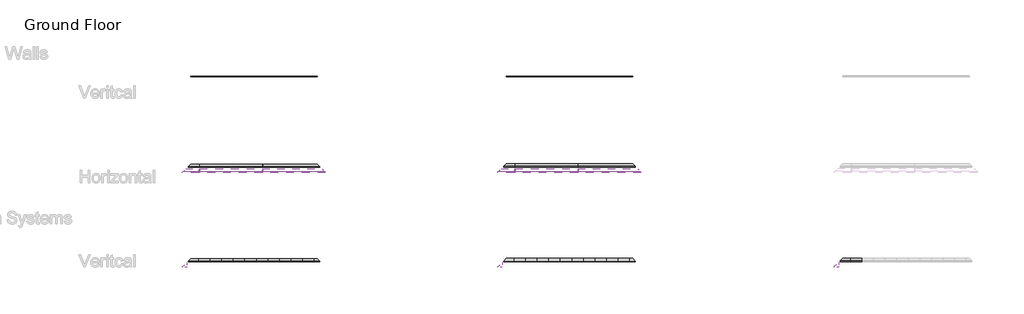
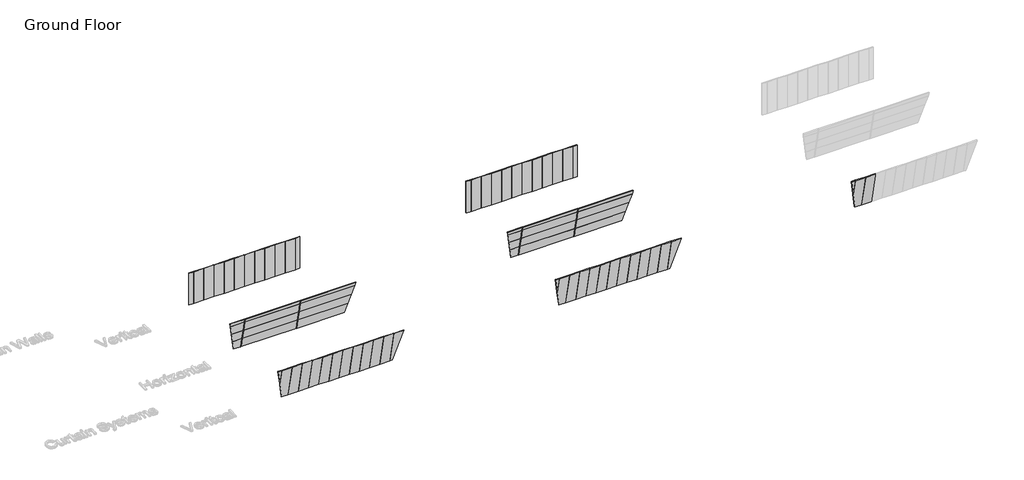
# One storey, part 1 of 8: 77 plates, 16 members.
"""IFC4 building model written with IfcOpenShell, lengths in millimetres."""

from ifc_helpers import new_model, si_unit, origin, place, context, project, spatial, transform, mapped, element, save
from components import rectangular_mullion_pi_mullion_20gap_50depth_70width_d86b8fff, rectangular_mullion_pi_mullion_20gap_50depth_70width_81056362, system_panel_d58b1396, system_panel_f572c1b2, system_panel_e06f3d7a, system_panel_d14b1779, system_panel_a5532c42, system_panel_94d6362e, system_panel_70361756, system_panel_64f5c2a7, system_panel_3e6877ad, system_panel_9fc00e6b, system_panel_0d8661cb, system_panel_57492bcf, system_panel_6d6b4bea, system_panel_0a7c523a, system_panel_9f17affc, system_panel_e9b7887a, system_panel_136fc1d7, system_panel_a8e93ce1, system_panel_80eadf60, system_panel_a79f1e6c, system_panel_bf4ea7ad, system_panel_1faeb660, system_panel_50a3a64b, system_panel_0f5eba97, system_panel_3cb8534e, system_panel_6406c018, system_panel_4131a554, system_panel_7735773b, system_panel_64921b5b, system_panel_bf0b8bad, system_panel_0ee0410c, system_panel_2999ba9c, system_panel_bf6df981, system_panel_4289257d, system_panel_7543d43a

model = new_model("IFC4")

# Units and contexts
model_context = context("Model", 3, world=origin())
ifc_project = project(units=[si_unit("LENGTHUNIT", "METRE", prefix="MILLI")], contexts=[model_context])

# Site, building, storey
site = spatial("IfcSite", under=ifc_project)
building = spatial("IfcBuilding", under=site)
storey = spatial("IfcBuildingStorey", under=building, Name="Ground Floor", Elevation=0.0)

# Members
placement = place(None, origin())
rectangular_mullion_pi_mullion_20gap_50depth_70width_shape = rectangular_mullion_pi_mullion_20gap_50depth_70width_d86b8fff(model_context)
element("IfcMember", 1, ObjectType="Rectangular Mullion : PI-Mullion - 20Gap-50Depth-70Width", at=placement, inside=storey, context=model_context, shape_type="MappedRepresentation", body=[
    mapped(rectangular_mullion_pi_mullion_20gap_50depth_70width_shape, transform((-44187.533429, -10929.4787062, 2152.1912103), x_axis=(-1.0, 0.0, 0.0), y_axis=(0.0, -0.9782687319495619, -0.2073409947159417), z_axis=(0.0, -0.2073409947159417, 0.9782687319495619))),
])
element("IfcMember", 2, ObjectType="Rectangular Mullion : PI-Mullion - 20Gap-50Depth-70Width", at=placement, inside=storey, context=model_context, shape_type="MappedRepresentation", body=[
    mapped(rectangular_mullion_pi_mullion_20gap_50depth_70width_shape, transform((-50187.533429, -10929.4787062, 2152.1912103), x_axis=(-1.0, 0.0, 0.0), y_axis=(0.0, -0.9782687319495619, -0.2073409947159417), z_axis=(0.0, -0.2073409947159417, 0.9782687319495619))),
])
element("IfcMember", 3, ObjectType="Rectangular Mullion : PI-Mullion - 20Gap-50Depth-70Width", at=placement, inside=storey, context=model_context, shape_type="MappedRepresentation", body=[
    mapped(rectangular_mullion_pi_mullion_20gap_50depth_70width_shape, transform((-44187.533429, -11157.5538004, 3228.2868154), x_axis=(-1.0, 0.0, 0.0), y_axis=(0.0, -0.9782687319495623, -0.20734099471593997), z_axis=(0.0, -0.20734099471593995, 0.9782687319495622))),
])
element("IfcMember", 4, ObjectType="Rectangular Mullion : PI-Mullion - 20Gap-50Depth-70Width", at=placement, inside=storey, context=model_context, shape_type="MappedRepresentation", body=[
    mapped(rectangular_mullion_pi_mullion_20gap_50depth_70width_shape, transform((-50187.533429, -11157.5538004, 3228.2868154), x_axis=(-1.0, 0.0, 0.0), y_axis=(0.0, -0.9782687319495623, -0.20734099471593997), z_axis=(0.0, -0.20734099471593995, 0.9782687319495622))),
])
element("IfcMember", 5, ObjectType="Rectangular Mullion : PI-Mullion - 20Gap-50Depth-70Width", at=placement, inside=storey, context=model_context, shape_type="MappedRepresentation", body=[
    mapped(rectangular_mullion_pi_mullion_20gap_50depth_70width_shape, transform((-14187.533429, -10929.4787062, 2152.1912103), x_axis=(-1.0, 0.0, 0.0), y_axis=(0.0, -0.9782687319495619, -0.2073409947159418), z_axis=(0.0, -0.2073409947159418, 0.9782687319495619))),
])
element("IfcMember", 6, ObjectType="Rectangular Mullion : PI-Mullion - 20Gap-50Depth-70Width", at=placement, inside=storey, context=model_context, shape_type="MappedRepresentation", body=[
    mapped(rectangular_mullion_pi_mullion_20gap_50depth_70width_shape, transform((-20187.533429, -10929.4787062, 2152.1912103), x_axis=(-1.0, 0.0, 0.0), y_axis=(0.0, -0.9782687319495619, -0.2073409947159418), z_axis=(0.0, -0.2073409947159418, 0.9782687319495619))),
])
element("IfcMember", 7, ObjectType="Rectangular Mullion : PI-Mullion - 20Gap-50Depth-70Width", at=placement, inside=storey, context=model_context, shape_type="MappedRepresentation", body=[
    mapped(rectangular_mullion_pi_mullion_20gap_50depth_70width_shape, transform((-14187.533429, -11157.5538004, 3228.2868154), x_axis=(-1.0, 0.0, 0.0), y_axis=(0.0, -0.9782687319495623, -0.20734099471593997), z_axis=(0.0, -0.20734099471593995, 0.9782687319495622))),
])
element("IfcMember", 8, ObjectType="Rectangular Mullion : PI-Mullion - 20Gap-50Depth-70Width", at=placement, inside=storey, context=model_context, shape_type="MappedRepresentation", body=[
    mapped(rectangular_mullion_pi_mullion_20gap_50depth_70width_shape, transform((-20187.533429, -11157.5538004, 3228.2868154), x_axis=(-1.0, 0.0, 0.0), y_axis=(0.0, -0.9782687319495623, -0.20734099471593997), z_axis=(0.0, -0.20734099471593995, 0.9782687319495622))),
])
rectangular_mullion_pi_mullion_20gap_50depth_70width_2_shape = rectangular_mullion_pi_mullion_20gap_50depth_70width_81056362(model_context)
element("IfcMember", 9, ObjectType="Rectangular Mullion : PI-Mullion - 20Gap-50Depth-70Width", at=placement, inside=storey, context=model_context, shape_type="MappedRepresentation", body=[
    mapped(rectangular_mullion_pi_mullion_20gap_50depth_70width_2_shape, transform((-44187.533429, -11236.337246, 3600.0), x_axis=(-1.0, 0.0, 0.0), y_axis=(0.0, -0.978268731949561, -0.20734099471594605), z_axis=(0.0, -0.20734099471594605, 0.978268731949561))),
])
element("IfcMember", 10, ObjectType="Rectangular Mullion : PI-Mullion - 20Gap-50Depth-70Width", at=placement, inside=storey, context=model_context, shape_type="MappedRepresentation", body=[
    mapped(rectangular_mullion_pi_mullion_20gap_50depth_70width_2_shape, transform((-50187.533429, -11236.337246, 3600.0), x_axis=(-1.0, 0.0, 0.0), y_axis=(0.0, -0.978268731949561, -0.20734099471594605), z_axis=(0.0, -0.20734099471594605, 0.978268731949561))),
])
element("IfcMember", 11, ObjectType="Rectangular Mullion : PI-Mullion - 20Gap-50Depth-70Width", at=placement, inside=storey, context=model_context, shape_type="MappedRepresentation", body=[
    mapped(rectangular_mullion_pi_mullion_20gap_50depth_70width_2_shape, transform((-14187.533429, -11236.337246, 3600.0), x_axis=(-1.0, 0.0, 0.0), y_axis=(0.0, -0.978268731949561, -0.20734099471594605), z_axis=(0.0, -0.20734099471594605, 0.978268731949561))),
])
element("IfcMember", 12, ObjectType="Rectangular Mullion : PI-Mullion - 20Gap-50Depth-70Width", at=placement, inside=storey, context=model_context, shape_type="MappedRepresentation", body=[
    mapped(rectangular_mullion_pi_mullion_20gap_50depth_70width_2_shape, transform((-20187.533429, -11236.337246, 3600.0), x_axis=(-1.0, 0.0, 0.0), y_axis=(0.0, -0.978268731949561, -0.20734099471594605), z_axis=(0.0, -0.20734099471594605, 0.978268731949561))),
])
element("IfcMember", 13, ObjectType="Rectangular Mullion : PI-Mullion - 20Gap-50Depth-70Width", at=placement, inside=storey, context=model_context, shape_type="MappedRepresentation", body=[
    mapped(rectangular_mullion_pi_mullion_20gap_50depth_70width_shape, transform((-44187.533429, -10701.403612, 1076.0956051), x_axis=(-1.0, 0.0, 0.0), y_axis=(0.0, -0.9782687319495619, -0.20734099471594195), z_axis=(0.0, -0.20734099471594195, 0.9782687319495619))),
])
element("IfcMember", 14, ObjectType="Rectangular Mullion : PI-Mullion - 20Gap-50Depth-70Width", at=placement, inside=storey, context=model_context, shape_type="MappedRepresentation", body=[
    mapped(rectangular_mullion_pi_mullion_20gap_50depth_70width_shape, transform((-50187.533429, -10701.403612, 1076.0956051), x_axis=(-1.0, 0.0, 0.0), y_axis=(0.0, -0.9782687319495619, -0.20734099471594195), z_axis=(0.0, -0.20734099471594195, 0.9782687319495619))),
])
element("IfcMember", 15, ObjectType="Rectangular Mullion : PI-Mullion - 20Gap-50Depth-70Width", at=placement, inside=storey, context=model_context, shape_type="MappedRepresentation", body=[
    mapped(rectangular_mullion_pi_mullion_20gap_50depth_70width_shape, transform((-14187.533429, -10701.403612, 1076.0956051), x_axis=(-1.0, 0.0, 0.0), y_axis=(0.0, -0.9782687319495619, -0.20734099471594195), z_axis=(0.0, -0.20734099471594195, 0.9782687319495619))),
])
element("IfcMember", 16, ObjectType="Rectangular Mullion : PI-Mullion - 20Gap-50Depth-70Width", at=placement, inside=storey, context=model_context, shape_type="MappedRepresentation", body=[
    mapped(rectangular_mullion_pi_mullion_20gap_50depth_70width_shape, transform((-20187.533429, -10701.403612, 1076.0956051), x_axis=(-1.0, 0.0, 0.0), y_axis=(0.0, -0.9782687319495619, -0.20734099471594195), z_axis=(0.0, -0.20734099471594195, 0.9782687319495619))),
])

# Plates
system_panel_shape = system_panel_d58b1396(model_context)
element("IfcPlate", 17, ObjectType="System Panel : Inspire 50mm Vertical - Plain RHEA-PIR", at=placement, inside=storey, context=model_context, shape_type="MappedRepresentation", body=[
    mapped(system_panel_shape, transform((-51597.533429, -19854.8328819, 1800.0), x_axis=(-1.0, 0.0, 0.0), y_axis=(0.0, -0.978268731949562, -0.20734099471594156), z_axis=(0.0, -0.20734099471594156, 0.978268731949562))),
])
system_panel_2_shape = system_panel_f572c1b2(model_context)
element("IfcPlate", 18, ObjectType="System Panel : Inspire 80mm Vertical - Plain RHEA-PIR", at=placement, inside=storey, context=model_context, shape_type="MappedRepresentation", body=[
    mapped(system_panel_2_shape, transform((-21597.533429, -19854.8328819, 1800.0), x_axis=(-1.0, 0.0, 0.0), y_axis=(0.0, -0.978268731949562, -0.20734099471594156), z_axis=(0.0, -0.20734099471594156, 0.978268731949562))),
])
system_panel_3_shape = system_panel_e06f3d7a(model_context)
element("IfcPlate", 19, ObjectType="System Panel : Inspire 100mm Vertical - Plain RHEA-PIR", at=placement, inside=storey, context=model_context, shape_type="MappedRepresentation", body=[
    mapped(system_panel_3_shape, transform((10402.466571, -19854.8328819, 1800.0), x_axis=(-1.0, 0.0, 0.0), y_axis=(0.0, -0.978268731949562, -0.20734099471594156), z_axis=(0.0, -0.20734099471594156, 0.978268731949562))),
])
system_panel_4_shape = system_panel_d14b1779(model_context)
element("IfcPlate", 20, ObjectType="System Panel : Inspire 50mm Vertical - Plain RHEA-PIR", at=placement, inside=storey, context=model_context, shape_type="MappedRepresentation", body=[
    mapped(system_panel_4_shape, transform((-47747.533429, -2133.3285178, 0.0), x_axis=(1.0, 0.0, 0.0), y_axis=(0.0, 1.0, 0.0), z_axis=(0.0, 0.0, 1.0))),
])
element("IfcPlate", 21, ObjectType="System Panel : Inspire 50mm Vertical - Plain RHEA-PIR", at=placement, inside=storey, context=model_context, shape_type="MappedRepresentation", body=[
    mapped(system_panel_4_shape, transform((-46647.533429, -2133.3285178, 0.0), x_axis=(1.0, 0.0, 0.0), y_axis=(0.0, 1.0, 0.0), z_axis=(0.0, 0.0, 1.0))),
])
element("IfcPlate", 22, ObjectType="System Panel : Inspire 50mm Vertical - Plain RHEA-PIR", at=placement, inside=storey, context=model_context, shape_type="MappedRepresentation", body=[
    mapped(system_panel_4_shape, transform((-45547.533429, -2133.3285178, 0.0), x_axis=(1.0, 0.0, 0.0), y_axis=(0.0, 1.0, 0.0), z_axis=(0.0, 0.0, 1.0))),
])
element("IfcPlate", 23, ObjectType="System Panel : Inspire 50mm Vertical - Plain RHEA-PIR", at=placement, inside=storey, context=model_context, shape_type="MappedRepresentation", body=[
    mapped(system_panel_4_shape, transform((-44447.533429, -2133.3285178, 0.0), x_axis=(1.0, 0.0, 0.0), y_axis=(0.0, 1.0, 0.0), z_axis=(0.0, 0.0, 1.0))),
])
element("IfcPlate", 24, ObjectType="System Panel : Inspire 50mm Vertical - Plain RHEA-PIR", at=placement, inside=storey, context=model_context, shape_type="MappedRepresentation", body=[
    mapped(system_panel_4_shape, transform((-43347.533429, -2133.3285178, 0.0), x_axis=(1.0, 0.0, 0.0), y_axis=(0.0, 1.0, 0.0), z_axis=(0.0, 0.0, 1.0))),
])
element("IfcPlate", 25, ObjectType="System Panel : Inspire 50mm Vertical - Plain RHEA-PIR", at=placement, inside=storey, context=model_context, shape_type="MappedRepresentation", body=[
    mapped(system_panel_4_shape, transform((-42247.533429, -2133.3285178, 0.0), x_axis=(1.0, 0.0, 0.0), y_axis=(0.0, 1.0, 0.0), z_axis=(0.0, 0.0, 1.0))),
])
element("IfcPlate", 26, ObjectType="System Panel : Inspire 50mm Vertical - Plain RHEA-PIR", at=placement, inside=storey, context=model_context, shape_type="MappedRepresentation", body=[
    mapped(system_panel_4_shape, transform((-41147.533429, -2133.3285178, 0.0), x_axis=(1.0, 0.0, 0.0), y_axis=(0.0, 1.0, 0.0), z_axis=(0.0, 0.0, 1.0))),
])
element("IfcPlate", 27, ObjectType="System Panel : Inspire 50mm Vertical - Plain RHEA-PIR", at=placement, inside=storey, context=model_context, shape_type="MappedRepresentation", body=[
    mapped(system_panel_4_shape, transform((-40047.533429, -2133.3285178, 0.0), x_axis=(1.0, 0.0, 0.0), y_axis=(0.0, 1.0, 0.0), z_axis=(0.0, 0.0, 1.0))),
])
element("IfcPlate", 28, ObjectType="System Panel : Inspire 50mm Vertical - Plain RHEA-PIR", at=placement, inside=storey, context=model_context, shape_type="MappedRepresentation", body=[
    mapped(system_panel_4_shape, transform((-48847.533429, -2133.3285178, 0.0), x_axis=(1.0, 0.0, 0.0), y_axis=(0.0, 1.0, 0.0), z_axis=(0.0, 0.0, 1.0))),
])
element("IfcPlate", 29, ObjectType="System Panel : Inspire 50mm Vertical - Plain RHEA-PIR", at=placement, inside=storey, context=model_context, shape_type="MappedRepresentation", body=[
    mapped(system_panel_4_shape, transform((-49947.533429, -2133.3285178, 0.0), x_axis=(1.0, 0.0, 0.0), y_axis=(0.0, 1.0, 0.0), z_axis=(0.0, 0.0, 1.0))),
])
system_panel_5_shape = system_panel_a5532c42(model_context)
element("IfcPlate", 30, ObjectType="System Panel : Inspire 50mm Vertical - Plain RHEA-PIR", at=placement, inside=storey, context=model_context, shape_type="MappedRepresentation", body=[
    mapped(system_panel_5_shape, transform((-50747.533429, -2133.3285178, 0.0), x_axis=(1.0, 0.0, 0.0), y_axis=(0.0, 1.0, 0.0), z_axis=(0.0, 0.0, 1.0))),
])
element("IfcPlate", 31, ObjectType="System Panel : Inspire 50mm Vertical - Plain RHEA-PIR", at=placement, inside=storey, context=model_context, shape_type="MappedRepresentation", body=[
    mapped(system_panel_5_shape, transform((-39247.533429, -2133.3285178, 0.0), x_axis=(1.0, 0.0, 0.0), y_axis=(0.0, 1.0, 0.0), z_axis=(0.0, 0.0, 1.0))),
])
system_panel_6_shape = system_panel_94d6362e(model_context)
element("IfcPlate", 32, ObjectType="System Panel : Inspire 50mm Horizontal - Plain RHEA-PIR", at=placement, inside=storey, context=model_context, shape_type="MappedRepresentation", body=[
    mapped(system_panel_6_shape, transform((-41228.8348939, -10929.4787062, 2152.1912103), x_axis=(-1.0, 0.0, 0.0), y_axis=(0.0, -0.978268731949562, -0.20734099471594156), z_axis=(0.0, -0.20734099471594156, 0.978268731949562))),
])
system_panel_7_shape = system_panel_70361756(model_context)
element("IfcPlate", 33, ObjectType="System Panel : Inspire 50mm Horizontal - Plain RHEA-PIR", at=placement, inside=storey, context=model_context, shape_type="MappedRepresentation", body=[
    mapped(system_panel_7_shape, transform((-47187.533429, -10473.3285178, 0.0), x_axis=(-1.0, 0.0, 0.0), y_axis=(0.0, -0.978268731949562, -0.20734099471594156), z_axis=(0.0, -0.20734099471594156, 0.978268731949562))),
])
element("IfcPlate", 34, ObjectType="System Panel : Inspire 50mm Horizontal - Plain RHEA-PIR", at=placement, inside=storey, context=model_context, shape_type="MappedRepresentation", body=[
    mapped(system_panel_7_shape, transform((-47187.533429, -10701.403612, 1076.0956051), x_axis=(-1.0, 0.0, 0.0), y_axis=(0.0, -0.978268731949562, -0.20734099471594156), z_axis=(0.0, -0.20734099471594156, 0.978268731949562))),
])
element("IfcPlate", 35, ObjectType="System Panel : Inspire 50mm Horizontal - Plain RHEA-PIR", at=placement, inside=storey, context=model_context, shape_type="MappedRepresentation", body=[
    mapped(system_panel_7_shape, transform((-47187.533429, -10929.4787062, 2152.1912103), x_axis=(-1.0, 0.0, 0.0), y_axis=(0.0, -0.978268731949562, -0.20734099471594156), z_axis=(0.0, -0.20734099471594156, 0.978268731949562))),
])
system_panel_8_shape = system_panel_64f5c2a7(model_context)
element("IfcPlate", 36, ObjectType="System Panel : Inspire 50mm Horizontal - Plain RHEA-PIR", at=placement, inside=storey, context=model_context, shape_type="MappedRepresentation", body=[
    mapped(system_panel_8_shape, transform((-50956.231964, -10929.4787062, 2152.1912103), x_axis=(-1.0, 0.0, 0.0), y_axis=(0.0, -0.978268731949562, -0.20734099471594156), z_axis=(0.0, -0.20734099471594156, 0.978268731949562))),
])
system_panel_9_shape = system_panel_3e6877ad(model_context)
element("IfcPlate", 37, ObjectType="System Panel : Inspire 50mm Horizontal - Plain RHEA-PIR", at=placement, inside=storey, context=model_context, shape_type="MappedRepresentation", body=[
    mapped(system_panel_9_shape, transform((-41187.533429, -11157.5538004, 3228.2868154), x_axis=(-1.0, 0.0, 0.0), y_axis=(0.0, -0.978268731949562, -0.20734099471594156), z_axis=(0.0, -0.20734099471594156, 0.978268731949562))),
])
system_panel_10_shape = system_panel_9fc00e6b(model_context)
element("IfcPlate", 38, ObjectType="System Panel : Inspire 50mm Horizontal - Plain RHEA-PIR", at=placement, inside=storey, context=model_context, shape_type="MappedRepresentation", body=[
    mapped(system_panel_10_shape, transform((-47187.533429, -11157.5538004, 3228.2868154), x_axis=(-1.0, 0.0, 0.0), y_axis=(0.0, -0.978268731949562, -0.20734099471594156), z_axis=(0.0, -0.20734099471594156, 0.978268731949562))),
])
system_panel_11_shape = system_panel_0d8661cb(model_context)
element("IfcPlate", 39, ObjectType="System Panel : Inspire 50mm Horizontal - Plain RHEA-PIR", at=placement, inside=storey, context=model_context, shape_type="MappedRepresentation", body=[
    mapped(system_panel_11_shape, transform((-50997.533429, -11157.5538004, 3228.2868154), x_axis=(-1.0, 0.0, 0.0), y_axis=(0.0, -0.978268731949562, -0.20734099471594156), z_axis=(0.0, -0.20734099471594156, 0.978268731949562))),
])
system_panel_12_shape = system_panel_57492bcf(model_context)
element("IfcPlate", 40, ObjectType="System Panel : Inspire 50mm Horizontal - Plain RHEA-PIR", at=placement, inside=storey, context=model_context, shape_type="MappedRepresentation", body=[
    mapped(system_panel_12_shape, transform((-41467.9672506, -10473.3285178, 0.0), x_axis=(-1.0, 0.0, 0.0), y_axis=(0.0, -0.978268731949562, -0.20734099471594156), z_axis=(0.0, -0.20734099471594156, 0.978268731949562))),
])
system_panel_13_shape = system_panel_6d6b4bea(model_context)
element("IfcPlate", 41, ObjectType="System Panel : Inspire 50mm Horizontal - Plain RHEA-PIR", at=placement, inside=storey, context=model_context, shape_type="MappedRepresentation", body=[
    mapped(system_panel_13_shape, transform((-50717.0996073, -10473.3285178, 0.0), x_axis=(-1.0, 0.0, 0.0), y_axis=(0.0, -0.978268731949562, -0.20734099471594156), z_axis=(0.0, -0.20734099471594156, 0.978268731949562))),
])
system_panel_14_shape = system_panel_0a7c523a(model_context)
element("IfcPlate", 42, ObjectType="System Panel : Inspire 50mm Horizontal - Plain RHEA-PIR", at=placement, inside=storey, context=model_context, shape_type="MappedRepresentation", body=[
    mapped(system_panel_14_shape, transform((-41348.4010723, -10701.403612, 1076.0956051), x_axis=(-1.0, 0.0, 0.0), y_axis=(0.0, -0.978268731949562, -0.20734099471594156), z_axis=(0.0, -0.20734099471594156, 0.978268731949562))),
])
system_panel_15_shape = system_panel_9f17affc(model_context)
element("IfcPlate", 43, ObjectType="System Panel : Inspire 50mm Horizontal - Plain RHEA-PIR", at=placement, inside=storey, context=model_context, shape_type="MappedRepresentation", body=[
    mapped(system_panel_15_shape, transform((-50836.6657856, -10701.403612, 1076.0956051), x_axis=(-1.0, 0.0, 0.0), y_axis=(0.0, -0.978268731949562, -0.20734099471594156), z_axis=(0.0, -0.20734099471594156, 0.978268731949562))),
])
system_panel_16_shape = system_panel_e9b7887a(model_context)
element("IfcPlate", 44, ObjectType="System Panel : Inspire 50mm Vertical - Plain RHEA-PIR", at=placement, inside=storey, context=model_context, shape_type="MappedRepresentation", body=[
    mapped(system_panel_16_shape, transform((-38747.533429, -19473.3285178, 0.0), x_axis=(-1.0, 0.0, 0.0), y_axis=(0.0, -0.978268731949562, -0.20734099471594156), z_axis=(0.0, -0.20734099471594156, 0.978268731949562))),
])
system_panel_17_shape = system_panel_136fc1d7(model_context)
element("IfcPlate", 45, ObjectType="System Panel : Inspire 50mm Vertical - Plain RHEA-PIR", at=placement, inside=storey, context=model_context, shape_type="MappedRepresentation", body=[
    mapped(system_panel_17_shape, transform((-39847.533429, -19473.3285178, 0.0), x_axis=(-1.0, 0.0, 0.0), y_axis=(0.0, -0.978268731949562, -0.20734099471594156), z_axis=(0.0, -0.20734099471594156, 0.978268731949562))),
])
element("IfcPlate", 46, ObjectType="System Panel : Inspire 50mm Vertical - Plain RHEA-PIR", at=placement, inside=storey, context=model_context, shape_type="MappedRepresentation", body=[
    mapped(system_panel_17_shape, transform((-40947.533429, -19473.3285178, 0.0), x_axis=(-1.0, 0.0, 0.0), y_axis=(0.0, -0.978268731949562, -0.20734099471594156), z_axis=(0.0, -0.20734099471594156, 0.978268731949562))),
])
element("IfcPlate", 47, ObjectType="System Panel : Inspire 50mm Vertical - Plain RHEA-PIR", at=placement, inside=storey, context=model_context, shape_type="MappedRepresentation", body=[
    mapped(system_panel_17_shape, transform((-42047.533429, -19473.3285178, 0.0), x_axis=(-1.0, 0.0, 0.0), y_axis=(0.0, -0.978268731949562, -0.20734099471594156), z_axis=(0.0, -0.20734099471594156, 0.978268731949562))),
])
element("IfcPlate", 48, ObjectType="System Panel : Inspire 50mm Vertical - Plain RHEA-PIR", at=placement, inside=storey, context=model_context, shape_type="MappedRepresentation", body=[
    mapped(system_panel_17_shape, transform((-43147.533429, -19473.3285178, 0.0), x_axis=(-1.0, 0.0, 0.0), y_axis=(0.0, -0.978268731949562, -0.20734099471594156), z_axis=(0.0, -0.20734099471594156, 0.978268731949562))),
])
element("IfcPlate", 49, ObjectType="System Panel : Inspire 50mm Vertical - Plain RHEA-PIR", at=placement, inside=storey, context=model_context, shape_type="MappedRepresentation", body=[
    mapped(system_panel_17_shape, transform((-44247.533429, -19473.3285178, 0.0), x_axis=(-1.0, 0.0, 0.0), y_axis=(0.0, -0.978268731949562, -0.20734099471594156), z_axis=(0.0, -0.20734099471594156, 0.978268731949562))),
])
element("IfcPlate", 50, ObjectType="System Panel : Inspire 50mm Vertical - Plain RHEA-PIR", at=placement, inside=storey, context=model_context, shape_type="MappedRepresentation", body=[
    mapped(system_panel_17_shape, transform((-45347.533429, -19473.3285178, 0.0), x_axis=(-1.0, 0.0, 0.0), y_axis=(0.0, -0.978268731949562, -0.20734099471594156), z_axis=(0.0, -0.20734099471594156, 0.978268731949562))),
])
element("IfcPlate", 51, ObjectType="System Panel : Inspire 50mm Vertical - Plain RHEA-PIR", at=placement, inside=storey, context=model_context, shape_type="MappedRepresentation", body=[
    mapped(system_panel_17_shape, transform((-46447.533429, -19473.3285178, 0.0), x_axis=(-1.0, 0.0, 0.0), y_axis=(0.0, -0.978268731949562, -0.20734099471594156), z_axis=(0.0, -0.20734099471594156, 0.978268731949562))),
])
element("IfcPlate", 52, ObjectType="System Panel : Inspire 50mm Vertical - Plain RHEA-PIR", at=placement, inside=storey, context=model_context, shape_type="MappedRepresentation", body=[
    mapped(system_panel_17_shape, transform((-47547.533429, -19473.3285178, 0.0), x_axis=(-1.0, 0.0, 0.0), y_axis=(0.0, -0.978268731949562, -0.20734099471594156), z_axis=(0.0, -0.20734099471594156, 0.978268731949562))),
])
element("IfcPlate", 53, ObjectType="System Panel : Inspire 50mm Vertical - Plain RHEA-PIR", at=placement, inside=storey, context=model_context, shape_type="MappedRepresentation", body=[
    mapped(system_panel_17_shape, transform((-48647.533429, -19473.3285178, 0.0), x_axis=(-1.0, 0.0, 0.0), y_axis=(0.0, -0.978268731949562, -0.20734099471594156), z_axis=(0.0, -0.20734099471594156, 0.978268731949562))),
])
element("IfcPlate", 54, ObjectType="System Panel : Inspire 50mm Vertical - Plain RHEA-PIR", at=placement, inside=storey, context=model_context, shape_type="MappedRepresentation", body=[
    mapped(system_panel_17_shape, transform((-49747.533429, -19473.3285178, 0.0), x_axis=(-1.0, 0.0, 0.0), y_axis=(0.0, -0.978268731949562, -0.20734099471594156), z_axis=(0.0, -0.20734099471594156, 0.978268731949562))),
])
system_panel_18_shape = system_panel_a8e93ce1(model_context)
element("IfcPlate", 55, ObjectType="System Panel : Inspire 50mm Vertical - Plain RHEA-PIR", at=placement, inside=storey, context=model_context, shape_type="MappedRepresentation", body=[
    mapped(system_panel_18_shape, transform((-50847.533429, -19473.3285178, 0.0), x_axis=(-1.0, 0.0, 0.0), y_axis=(0.0, -0.978268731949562, -0.20734099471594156), z_axis=(0.0, -0.20734099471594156, 0.978268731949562))),
])
system_panel_19_shape = system_panel_80eadf60(model_context)
element("IfcPlate", 56, ObjectType="System Panel : Inspire 80mm Vertical - Plain RHEA-PIR", at=placement, inside=storey, context=model_context, shape_type="MappedRepresentation", body=[
    mapped(system_panel_19_shape, transform((-8747.533429, -19473.3285178, 0.0), x_axis=(-1.0, 0.0, 0.0), y_axis=(0.0, -0.978268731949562, -0.20734099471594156), z_axis=(0.0, -0.20734099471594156, 0.978268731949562))),
])
system_panel_20_shape = system_panel_a79f1e6c(model_context)
element("IfcPlate", 57, ObjectType="System Panel : Inspire 80mm Vertical - Plain RHEA-PIR", at=placement, inside=storey, context=model_context, shape_type="MappedRepresentation", body=[
    mapped(system_panel_20_shape, transform((-9847.533429, -19473.3285178, 0.0), x_axis=(-1.0, 0.0, 0.0), y_axis=(0.0, -0.978268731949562, -0.20734099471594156), z_axis=(0.0, -0.20734099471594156, 0.978268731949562))),
])
element("IfcPlate", 58, ObjectType="System Panel : Inspire 80mm Vertical - Plain RHEA-PIR", at=placement, inside=storey, context=model_context, shape_type="MappedRepresentation", body=[
    mapped(system_panel_20_shape, transform((-10947.533429, -19473.3285178, 0.0), x_axis=(-1.0, 0.0, 0.0), y_axis=(0.0, -0.978268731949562, -0.20734099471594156), z_axis=(0.0, -0.20734099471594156, 0.978268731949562))),
])
element("IfcPlate", 59, ObjectType="System Panel : Inspire 80mm Vertical - Plain RHEA-PIR", at=placement, inside=storey, context=model_context, shape_type="MappedRepresentation", body=[
    mapped(system_panel_20_shape, transform((-12047.533429, -19473.3285178, 0.0), x_axis=(-1.0, 0.0, 0.0), y_axis=(0.0, -0.978268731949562, -0.20734099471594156), z_axis=(0.0, -0.20734099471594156, 0.978268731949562))),
])
element("IfcPlate", 60, ObjectType="System Panel : Inspire 80mm Vertical - Plain RHEA-PIR", at=placement, inside=storey, context=model_context, shape_type="MappedRepresentation", body=[
    mapped(system_panel_20_shape, transform((-13147.533429, -19473.3285178, 0.0), x_axis=(-1.0, 0.0, 0.0), y_axis=(0.0, -0.978268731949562, -0.20734099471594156), z_axis=(0.0, -0.20734099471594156, 0.978268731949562))),
])
element("IfcPlate", 61, ObjectType="System Panel : Inspire 80mm Vertical - Plain RHEA-PIR", at=placement, inside=storey, context=model_context, shape_type="MappedRepresentation", body=[
    mapped(system_panel_20_shape, transform((-14247.533429, -19473.3285178, 0.0), x_axis=(-1.0, 0.0, 0.0), y_axis=(0.0, -0.978268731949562, -0.20734099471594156), z_axis=(0.0, -0.20734099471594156, 0.978268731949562))),
])
element("IfcPlate", 62, ObjectType="System Panel : Inspire 80mm Vertical - Plain RHEA-PIR", at=placement, inside=storey, context=model_context, shape_type="MappedRepresentation", body=[
    mapped(system_panel_20_shape, transform((-15347.533429, -19473.3285178, 0.0), x_axis=(-1.0, 0.0, 0.0), y_axis=(0.0, -0.978268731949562, -0.20734099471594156), z_axis=(0.0, -0.20734099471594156, 0.978268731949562))),
])
element("IfcPlate", 63, ObjectType="System Panel : Inspire 80mm Vertical - Plain RHEA-PIR", at=placement, inside=storey, context=model_context, shape_type="MappedRepresentation", body=[
    mapped(system_panel_20_shape, transform((-16447.533429, -19473.3285178, 0.0), x_axis=(-1.0, 0.0, 0.0), y_axis=(0.0, -0.978268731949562, -0.20734099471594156), z_axis=(0.0, -0.20734099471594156, 0.978268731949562))),
])
element("IfcPlate", 64, ObjectType="System Panel : Inspire 80mm Vertical - Plain RHEA-PIR", at=placement, inside=storey, context=model_context, shape_type="MappedRepresentation", body=[
    mapped(system_panel_20_shape, transform((-17547.533429, -19473.3285178, 0.0), x_axis=(-1.0, 0.0, 0.0), y_axis=(0.0, -0.978268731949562, -0.20734099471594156), z_axis=(0.0, -0.20734099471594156, 0.978268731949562))),
])
element("IfcPlate", 65, ObjectType="System Panel : Inspire 80mm Vertical - Plain RHEA-PIR", at=placement, inside=storey, context=model_context, shape_type="MappedRepresentation", body=[
    mapped(system_panel_20_shape, transform((-18647.533429, -19473.3285178, 0.0), x_axis=(-1.0, 0.0, 0.0), y_axis=(0.0, -0.978268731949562, -0.20734099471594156), z_axis=(0.0, -0.20734099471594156, 0.978268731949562))),
])
element("IfcPlate", 66, ObjectType="System Panel : Inspire 80mm Vertical - Plain RHEA-PIR", at=placement, inside=storey, context=model_context, shape_type="MappedRepresentation", body=[
    mapped(system_panel_20_shape, transform((-19747.533429, -19473.3285178, 0.0), x_axis=(-1.0, 0.0, 0.0), y_axis=(0.0, -0.978268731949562, -0.20734099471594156), z_axis=(0.0, -0.20734099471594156, 0.978268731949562))),
])
system_panel_21_shape = system_panel_bf4ea7ad(model_context)
element("IfcPlate", 67, ObjectType="System Panel : Inspire 80mm Vertical - Plain RHEA-PIR", at=placement, inside=storey, context=model_context, shape_type="MappedRepresentation", body=[
    mapped(system_panel_21_shape, transform((-20847.533429, -19473.3285178, 0.0), x_axis=(-1.0, 0.0, 0.0), y_axis=(0.0, -0.978268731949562, -0.20734099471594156), z_axis=(0.0, -0.20734099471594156, 0.978268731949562))),
])
system_panel_22_shape = system_panel_1faeb660(model_context)
element("IfcPlate", 68, ObjectType="System Panel : Inspire 80mm Horizontal - Plain RHEA-PIR", at=placement, inside=storey, context=model_context, shape_type="MappedRepresentation", body=[
    mapped(system_panel_22_shape, transform((-11467.9672506, -10473.3285178, 0.0), x_axis=(-1.0, 0.0, 0.0), y_axis=(0.0, -0.978268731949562, -0.20734099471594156), z_axis=(0.0, -0.20734099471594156, 0.978268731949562))),
])
system_panel_23_shape = system_panel_50a3a64b(model_context)
element("IfcPlate", 69, ObjectType="System Panel : Inspire 80mm Horizontal - Plain RHEA-PIR", at=placement, inside=storey, context=model_context, shape_type="MappedRepresentation", body=[
    mapped(system_panel_23_shape, transform((-17187.533429, -10473.3285178, 0.0), x_axis=(-1.0, 0.0, 0.0), y_axis=(0.0, -0.978268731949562, -0.20734099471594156), z_axis=(0.0, -0.20734099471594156, 0.978268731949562))),
])
element("IfcPlate", 70, ObjectType="System Panel : Inspire 80mm Horizontal - Plain RHEA-PIR", at=placement, inside=storey, context=model_context, shape_type="MappedRepresentation", body=[
    mapped(system_panel_23_shape, transform((-17187.533429, -10701.403612, 1076.0956051), x_axis=(-1.0, 0.0, 0.0), y_axis=(0.0, -0.978268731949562, -0.20734099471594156), z_axis=(0.0, -0.20734099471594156, 0.978268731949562))),
])
element("IfcPlate", 71, ObjectType="System Panel : Inspire 80mm Horizontal - Plain RHEA-PIR", at=placement, inside=storey, context=model_context, shape_type="MappedRepresentation", body=[
    mapped(system_panel_23_shape, transform((-17187.533429, -10929.4787062, 2152.1912103), x_axis=(-1.0, 0.0, 0.0), y_axis=(0.0, -0.978268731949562, -0.20734099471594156), z_axis=(0.0, -0.20734099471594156, 0.978268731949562))),
])
system_panel_24_shape = system_panel_0f5eba97(model_context)
element("IfcPlate", 72, ObjectType="System Panel : Inspire 80mm Horizontal - Plain RHEA-PIR", at=placement, inside=storey, context=model_context, shape_type="MappedRepresentation", body=[
    mapped(system_panel_24_shape, transform((-20717.0996073, -10473.3285178, 0.0), x_axis=(-1.0, 0.0, 0.0), y_axis=(0.0, -0.978268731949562, -0.20734099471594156), z_axis=(0.0, -0.20734099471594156, 0.978268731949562))),
])
system_panel_25_shape = system_panel_3cb8534e(model_context)
element("IfcPlate", 73, ObjectType="System Panel : Inspire 80mm Horizontal - Plain RHEA-PIR", at=placement, inside=storey, context=model_context, shape_type="MappedRepresentation", body=[
    mapped(system_panel_25_shape, transform((-11348.4010723, -10701.403612, 1076.0956051), x_axis=(-1.0, 0.0, 0.0), y_axis=(0.0, -0.978268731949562, -0.20734099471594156), z_axis=(0.0, -0.20734099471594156, 0.978268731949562))),
])
system_panel_26_shape = system_panel_6406c018(model_context)
element("IfcPlate", 74, ObjectType="System Panel : Inspire 80mm Horizontal - Plain RHEA-PIR", at=placement, inside=storey, context=model_context, shape_type="MappedRepresentation", body=[
    mapped(system_panel_26_shape, transform((-20836.6657856, -10701.403612, 1076.0956051), x_axis=(-1.0, 0.0, 0.0), y_axis=(0.0, -0.978268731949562, -0.20734099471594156), z_axis=(0.0, -0.20734099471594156, 0.978268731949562))),
])
system_panel_27_shape = system_panel_4131a554(model_context)
element("IfcPlate", 75, ObjectType="System Panel : Inspire 80mm Horizontal - Plain RHEA-PIR", at=placement, inside=storey, context=model_context, shape_type="MappedRepresentation", body=[
    mapped(system_panel_27_shape, transform((-11228.8348939, -10929.4787062, 2152.1912103), x_axis=(-1.0, 0.0, 0.0), y_axis=(0.0, -0.978268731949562, -0.20734099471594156), z_axis=(0.0, -0.20734099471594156, 0.978268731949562))),
])
system_panel_28_shape = system_panel_7735773b(model_context)
element("IfcPlate", 76, ObjectType="System Panel : Inspire 80mm Horizontal - Plain RHEA-PIR", at=placement, inside=storey, context=model_context, shape_type="MappedRepresentation", body=[
    mapped(system_panel_28_shape, transform((-20956.231964, -10929.4787062, 2152.1912103), x_axis=(-1.0, 0.0, 0.0), y_axis=(0.0, -0.978268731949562, -0.20734099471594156), z_axis=(0.0, -0.20734099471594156, 0.978268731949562))),
])
system_panel_29_shape = system_panel_64921b5b(model_context)
element("IfcPlate", 77, ObjectType="System Panel : Inspire 80mm Horizontal - Plain RHEA-PIR", at=placement, inside=storey, context=model_context, shape_type="MappedRepresentation", body=[
    mapped(system_panel_29_shape, transform((-11187.533429, -11157.5538004, 3228.2868154), x_axis=(-1.0, 0.0, 0.0), y_axis=(0.0, -0.978268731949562, -0.20734099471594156), z_axis=(0.0, -0.20734099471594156, 0.978268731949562))),
])
system_panel_30_shape = system_panel_bf0b8bad(model_context)
element("IfcPlate", 78, ObjectType="System Panel : Inspire 80mm Horizontal - Plain RHEA-PIR", at=placement, inside=storey, context=model_context, shape_type="MappedRepresentation", body=[
    mapped(system_panel_30_shape, transform((-17187.533429, -11157.5538004, 3228.2868154), x_axis=(-1.0, 0.0, 0.0), y_axis=(0.0, -0.978268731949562, -0.20734099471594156), z_axis=(0.0, -0.20734099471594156, 0.978268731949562))),
])
system_panel_31_shape = system_panel_0ee0410c(model_context)
element("IfcPlate", 79, ObjectType="System Panel : Inspire 80mm Horizontal - Plain RHEA-PIR", at=placement, inside=storey, context=model_context, shape_type="MappedRepresentation", body=[
    mapped(system_panel_31_shape, transform((-20997.533429, -11157.5538004, 3228.2868154), x_axis=(-1.0, 0.0, 0.0), y_axis=(0.0, -0.978268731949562, -0.20734099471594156), z_axis=(0.0, -0.20734099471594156, 0.978268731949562))),
])
system_panel_32_shape = system_panel_2999ba9c(model_context)
element("IfcPlate", 80, ObjectType="System Panel : Inspire 80mm Vertical - Plain RHEA-PIR", at=placement, inside=storey, context=model_context, shape_type="MappedRepresentation", body=[
    mapped(system_panel_32_shape, transform((-17747.533429, -2133.3285178, 0.0), x_axis=(1.0, 0.0, 0.0), y_axis=(0.0, 1.0, 0.0), z_axis=(0.0, 0.0, 1.0))),
])
element("IfcPlate", 81, ObjectType="System Panel : Inspire 80mm Vertical - Plain RHEA-PIR", at=placement, inside=storey, context=model_context, shape_type="MappedRepresentation", body=[
    mapped(system_panel_32_shape, transform((-16647.533429, -2133.3285178, 0.0), x_axis=(1.0, 0.0, 0.0), y_axis=(0.0, 1.0, 0.0), z_axis=(0.0, 0.0, 1.0))),
])
element("IfcPlate", 82, ObjectType="System Panel : Inspire 80mm Vertical - Plain RHEA-PIR", at=placement, inside=storey, context=model_context, shape_type="MappedRepresentation", body=[
    mapped(system_panel_32_shape, transform((-15547.533429, -2133.3285178, 0.0), x_axis=(1.0, 0.0, 0.0), y_axis=(0.0, 1.0, 0.0), z_axis=(0.0, 0.0, 1.0))),
])
element("IfcPlate", 83, ObjectType="System Panel : Inspire 80mm Vertical - Plain RHEA-PIR", at=placement, inside=storey, context=model_context, shape_type="MappedRepresentation", body=[
    mapped(system_panel_32_shape, transform((-14447.533429, -2133.3285178, 0.0), x_axis=(1.0, 0.0, 0.0), y_axis=(0.0, 1.0, 0.0), z_axis=(0.0, 0.0, 1.0))),
])
element("IfcPlate", 84, ObjectType="System Panel : Inspire 80mm Vertical - Plain RHEA-PIR", at=placement, inside=storey, context=model_context, shape_type="MappedRepresentation", body=[
    mapped(system_panel_32_shape, transform((-13347.533429, -2133.3285178, 0.0), x_axis=(1.0, 0.0, 0.0), y_axis=(0.0, 1.0, 0.0), z_axis=(0.0, 0.0, 1.0))),
])
element("IfcPlate", 85, ObjectType="System Panel : Inspire 80mm Vertical - Plain RHEA-PIR", at=placement, inside=storey, context=model_context, shape_type="MappedRepresentation", body=[
    mapped(system_panel_32_shape, transform((-12247.533429, -2133.3285178, 0.0), x_axis=(1.0, 0.0, 0.0), y_axis=(0.0, 1.0, 0.0), z_axis=(0.0, 0.0, 1.0))),
])
element("IfcPlate", 86, ObjectType="System Panel : Inspire 80mm Vertical - Plain RHEA-PIR", at=placement, inside=storey, context=model_context, shape_type="MappedRepresentation", body=[
    mapped(system_panel_32_shape, transform((-11147.533429, -2133.3285178, 0.0), x_axis=(1.0, 0.0, 0.0), y_axis=(0.0, 1.0, 0.0), z_axis=(0.0, 0.0, 1.0))),
])
element("IfcPlate", 87, ObjectType="System Panel : Inspire 80mm Vertical - Plain RHEA-PIR", at=placement, inside=storey, context=model_context, shape_type="MappedRepresentation", body=[
    mapped(system_panel_32_shape, transform((-10047.533429, -2133.3285178, 0.0), x_axis=(1.0, 0.0, 0.0), y_axis=(0.0, 1.0, 0.0), z_axis=(0.0, 0.0, 1.0))),
])
element("IfcPlate", 88, ObjectType="System Panel : Inspire 80mm Vertical - Plain RHEA-PIR", at=placement, inside=storey, context=model_context, shape_type="MappedRepresentation", body=[
    mapped(system_panel_32_shape, transform((-18847.533429, -2133.3285178, 0.0), x_axis=(1.0, 0.0, 0.0), y_axis=(0.0, 1.0, 0.0), z_axis=(0.0, 0.0, 1.0))),
])
element("IfcPlate", 89, ObjectType="System Panel : Inspire 80mm Vertical - Plain RHEA-PIR", at=placement, inside=storey, context=model_context, shape_type="MappedRepresentation", body=[
    mapped(system_panel_32_shape, transform((-19947.533429, -2133.3285178, 0.0), x_axis=(1.0, 0.0, 0.0), y_axis=(0.0, 1.0, 0.0), z_axis=(0.0, 0.0, 1.0))),
])
system_panel_33_shape = system_panel_bf6df981(model_context)
element("IfcPlate", 90, ObjectType="System Panel : Inspire 80mm Vertical - Plain RHEA-PIR", at=placement, inside=storey, context=model_context, shape_type="MappedRepresentation", body=[
    mapped(system_panel_33_shape, transform((-20747.533429, -2133.3285178, 0.0), x_axis=(1.0, 0.0, 0.0), y_axis=(0.0, 1.0, 0.0), z_axis=(0.0, 0.0, 1.0))),
])
element("IfcPlate", 91, ObjectType="System Panel : Inspire 80mm Vertical - Plain RHEA-PIR", at=placement, inside=storey, context=model_context, shape_type="MappedRepresentation", body=[
    mapped(system_panel_33_shape, transform((-9247.533429, -2133.3285178, 0.0), x_axis=(1.0, 0.0, 0.0), y_axis=(0.0, 1.0, 0.0), z_axis=(0.0, 0.0, 1.0))),
])
system_panel_34_shape = system_panel_4289257d(model_context)
element("IfcPlate", 92, ObjectType="System Panel : Inspire 100mm Vertical - Plain RHEA-PIR", at=placement, inside=storey, context=model_context, shape_type="MappedRepresentation", body=[
    mapped(system_panel_34_shape, transform((12252.466571, -19473.3285178, 0.0), x_axis=(-1.0, 0.0, 0.0), y_axis=(0.0, -0.978268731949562, -0.20734099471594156), z_axis=(0.0, -0.20734099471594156, 0.978268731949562))),
])
system_panel_35_shape = system_panel_7543d43a(model_context)
element("IfcPlate", 93, ObjectType="System Panel : Inspire 100mm Vertical - Plain RHEA-PIR", at=placement, inside=storey, context=model_context, shape_type="MappedRepresentation", body=[
    mapped(system_panel_35_shape, transform((11152.466571, -19473.3285178, 0.0), x_axis=(-1.0, 0.0, 0.0), y_axis=(0.0, -0.978268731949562, -0.20734099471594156), z_axis=(0.0, -0.20734099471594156, 0.978268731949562))),
])

save(model, "model.ifc")
